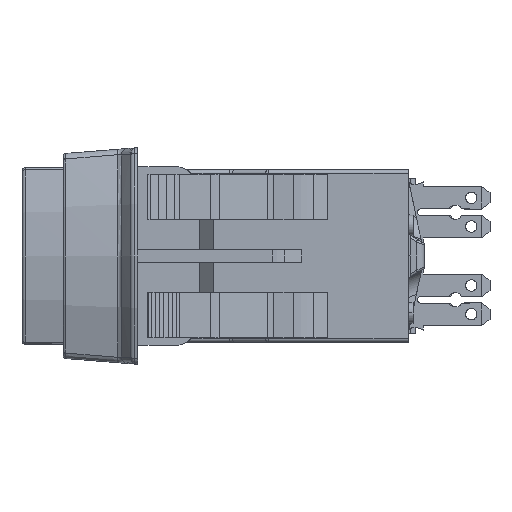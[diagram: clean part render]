
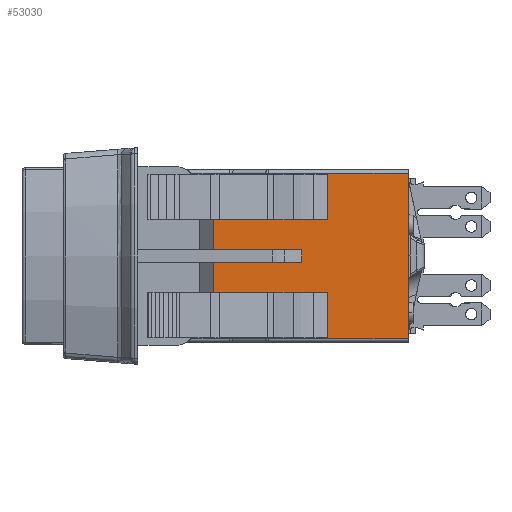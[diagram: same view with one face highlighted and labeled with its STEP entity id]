
A CAD part, left-side view. The second image highlights one B-rep face of the part: STEP entity #53030.
In plain terms, the highlighted planar face has unit normal (-1, 0, 0).
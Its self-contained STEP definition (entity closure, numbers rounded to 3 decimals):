
#12535=DIRECTION('',(0.,0.,1.));
#12536=VECTOR('',#12535,20.2);
#12537=CARTESIAN_POINT('',(-20.5,0.,-10.1));
#12538=LINE('',#12537,#12536);
#12938=DIRECTION('',(0.,-1.,0.));
#12939=VECTOR('',#12938,4.619);
#12940=CARTESIAN_POINT('',(-20.5,21.633,-4.5));
#12941=LINE('',#12940,#12939);
#13107=DIRECTION('',(0.,1.,0.));
#13108=VECTOR('',#13107,4.619);
#13109=CARTESIAN_POINT('',(-20.5,17.014,4.5));
#13110=LINE('',#13109,#13108);
#15149=DIRECTION('',(0.,0.,1.));
#15150=VECTOR('',#15149,5.5);
#15151=CARTESIAN_POINT('',(-20.5,14.125,-10.));
#15152=LINE('',#15151,#15150);
#15153=DIRECTION('',(0.,0.,1.));
#15154=VECTOR('',#15153,5.5);
#15155=CARTESIAN_POINT('',(-20.5,9.8,-10.));
#15156=LINE('',#15155,#15154);
#15157=DIRECTION('',(0.,0.,1.));
#15158=VECTOR('',#15157,5.5);
#15159=CARTESIAN_POINT('',(-20.5,14.125,4.5));
#15160=LINE('',#15159,#15158);
#15161=DIRECTION('',(0.,0.,1.));
#15162=VECTOR('',#15161,5.5);
#15163=CARTESIAN_POINT('',(-20.5,9.8,4.5));
#15164=LINE('',#15163,#15162);
#15165=DIRECTION('',(0.,-1.,0.));
#15166=VECTOR('',#15165,17.014);
#15167=CARTESIAN_POINT('',(-20.5,17.014,10.1));
#15168=LINE('',#15167,#15166);
#15169=DIRECTION('',(0.,1.,0.));
#15170=VECTOR('',#15169,17.014);
#15171=CARTESIAN_POINT('',(-20.5,0.,-10.1));
#15172=LINE('',#15171,#15170);
#15173=DIRECTION('',(0.,0.,-1.));
#15174=VECTOR('',#15173,5.6);
#15175=CARTESIAN_POINT('',(-20.5,17.014,-4.5));
#15176=LINE('',#15175,#15174);
#15177=DIRECTION('',(0.,-1.,0.));
#15178=VECTOR('',#15177,2.167);
#15179=CARTESIAN_POINT('',(-20.5,23.8,-4.5));
#15180=LINE('',#15179,#15178);
#15181=DIRECTION('',(0.,0.,1.));
#15182=VECTOR('',#15181,3.75);
#15183=CARTESIAN_POINT('',(-20.5,23.8,-4.5));
#15184=LINE('',#15183,#15182);
#15185=DIRECTION('',(0.,-1.,0.));
#15186=VECTOR('',#15185,10.8);
#15187=CARTESIAN_POINT('',(-20.5,23.8,-0.75));
#15188=LINE('',#15187,#15186);
#15189=DIRECTION('',(0.,0.,1.));
#15190=VECTOR('',#15189,1.5);
#15191=CARTESIAN_POINT('',(-20.5,13.,-0.75));
#15192=LINE('',#15191,#15190);
#15193=DIRECTION('',(0.,-1.,0.));
#15194=VECTOR('',#15193,10.8);
#15195=CARTESIAN_POINT('',(-20.5,23.8,0.75));
#15196=LINE('',#15195,#15194);
#15197=DIRECTION('',(0.,0.,1.));
#15198=VECTOR('',#15197,3.75);
#15199=CARTESIAN_POINT('',(-20.5,23.8,0.75));
#15200=LINE('',#15199,#15198);
#15201=DIRECTION('',(0.,-1.,0.));
#15202=VECTOR('',#15201,2.167);
#15203=CARTESIAN_POINT('',(-20.5,23.8,4.5));
#15204=LINE('',#15203,#15202);
#15205=DIRECTION('',(0.,0.,-1.));
#15206=VECTOR('',#15205,5.6);
#15207=CARTESIAN_POINT('',(-20.5,17.014,10.1));
#15208=LINE('',#15207,#15206);
#15342=DIRECTION('',(0.,1.,0.));
#15343=VECTOR('',#15342,4.325);
#15344=CARTESIAN_POINT('',(-20.5,9.8,-10.));
#15345=LINE('',#15344,#15343);
#15486=DIRECTION('',(0.,1.,0.));
#15487=VECTOR('',#15486,4.325);
#15488=CARTESIAN_POINT('',(-20.5,9.8,4.5));
#15489=LINE('',#15488,#15487);
#15706=DIRECTION('',(0.,-1.,0.));
#15707=VECTOR('',#15706,4.325);
#15708=CARTESIAN_POINT('',(-20.5,14.125,10.));
#15709=LINE('',#15708,#15707);
#22370=DIRECTION('',(0.,-1.,0.));
#22371=VECTOR('',#22370,4.325);
#22372=CARTESIAN_POINT('',(-20.5,14.125,-4.5));
#22373=LINE('',#22372,#22371);
#26501=CARTESIAN_POINT('',(-20.5,23.8,-0.75));
#26502=CARTESIAN_POINT('',(-20.5,13.,-0.75));
#26503=VERTEX_POINT('',#26501);
#26504=VERTEX_POINT('',#26502);
#26505=CARTESIAN_POINT('',(-20.5,23.8,0.75));
#26506=CARTESIAN_POINT('',(-20.5,13.,0.75));
#26507=VERTEX_POINT('',#26505);
#26508=VERTEX_POINT('',#26506);
#26665=CARTESIAN_POINT('',(-20.5,9.8,-10.));
#26666=CARTESIAN_POINT('',(-20.5,9.8,-4.5));
#26667=VERTEX_POINT('',#26665);
#26668=VERTEX_POINT('',#26666);
#26669=CARTESIAN_POINT('',(-20.5,23.8,-4.5));
#26670=CARTESIAN_POINT('',(-20.5,21.633,-4.5));
#26671=VERTEX_POINT('',#26669);
#26672=VERTEX_POINT('',#26670);
#26915=CARTESIAN_POINT('',(-20.5,9.8,4.5));
#26916=CARTESIAN_POINT('',(-20.5,9.8,10.));
#26917=VERTEX_POINT('',#26915);
#26918=VERTEX_POINT('',#26916);
#26927=CARTESIAN_POINT('',(-20.5,23.8,4.5));
#26928=CARTESIAN_POINT('',(-20.5,21.633,4.5));
#26929=VERTEX_POINT('',#26927);
#26930=VERTEX_POINT('',#26928);
#29908=CARTESIAN_POINT('',(-20.5,14.125,-10.));
#29909=CARTESIAN_POINT('',(-20.5,14.125,-4.5));
#29910=VERTEX_POINT('',#29908);
#29911=VERTEX_POINT('',#29909);
#29921=CARTESIAN_POINT('',(-20.5,14.125,4.5));
#29923=VERTEX_POINT('',#29921);
#29924=CARTESIAN_POINT('',(-20.5,14.125,10.));
#29926=VERTEX_POINT('',#29924);
#30325=CARTESIAN_POINT('',(-20.5,17.014,-4.5));
#30327=VERTEX_POINT('',#30325);
#30328=CARTESIAN_POINT('',(-20.5,17.014,4.5));
#30330=VERTEX_POINT('',#30328);
#30413=CARTESIAN_POINT('',(-20.5,0.,10.1));
#30415=VERTEX_POINT('',#30413);
#30416=CARTESIAN_POINT('',(-20.5,17.014,10.1));
#30417=VERTEX_POINT('',#30416);
#30454=CARTESIAN_POINT('',(-20.5,17.014,-10.1));
#30455=VERTEX_POINT('',#30454);
#30456=CARTESIAN_POINT('',(-20.5,0.,-10.1));
#30458=VERTEX_POINT('',#30456);
#52979=CARTESIAN_POINT('',(-20.5,17.2,-10.5));
#52980=DIRECTION('',(-1.,0.,0.));
#52981=DIRECTION('',(0.,-1.,0.));
#52982=AXIS2_PLACEMENT_3D('',#52979,#52980,#52981);
#52983=PLANE('',#52982);
#52984=ORIENTED_EDGE('',*,*,#52972,.T.);
#52985=ORIENTED_EDGE('',*,*,#49543,.F.);
#52987=ORIENTED_EDGE('',*,*,#52986,.T.);
#52989=ORIENTED_EDGE('',*,*,#52988,.F.);
#52990=ORIENTED_EDGE('',*,*,#49943,.F.);
#52992=ORIENTED_EDGE('',*,*,#52991,.F.);
#52994=ORIENTED_EDGE('',*,*,#52993,.T.);
#52996=ORIENTED_EDGE('',*,*,#52995,.T.);
#52998=ORIENTED_EDGE('',*,*,#52997,.T.);
#53000=ORIENTED_EDGE('',*,*,#52999,.F.);
#53002=ORIENTED_EDGE('',*,*,#53001,.T.);
#53004=ORIENTED_EDGE('',*,*,#53003,.T.);
#53005=ORIENTED_EDGE('',*,*,#50135,.F.);
#53007=ORIENTED_EDGE('',*,*,#53006,.F.);
#53008=EDGE_LOOP('',(#52984,#52985,#52987,#52989,#52990,#52992,#52994,#52996,
#52998,#53000,#53002,#53004,#53005,#53007));
#53009=FACE_OUTER_BOUND('',#53008,.F.);
#53011=ORIENTED_EDGE('',*,*,#53010,.F.);
#53013=ORIENTED_EDGE('',*,*,#53012,.F.);
#53015=ORIENTED_EDGE('',*,*,#53014,.T.);
#53017=ORIENTED_EDGE('',*,*,#53016,.F.);
#53018=EDGE_LOOP('',(#53011,#53013,#53015,#53017));
#53019=FACE_BOUND('',#53018,.F.);
#53021=ORIENTED_EDGE('',*,*,#53020,.F.);
#53023=ORIENTED_EDGE('',*,*,#53022,.F.);
#53025=ORIENTED_EDGE('',*,*,#53024,.T.);
#53027=ORIENTED_EDGE('',*,*,#53026,.F.);
#53028=EDGE_LOOP('',(#53021,#53023,#53025,#53027));
#53029=FACE_BOUND('',#53028,.F.);
#49543=EDGE_CURVE('',#30458,#30415,#12538,.T.);
#49943=EDGE_CURVE('',#26672,#30327,#12941,.T.);
#50135=EDGE_CURVE('',#30330,#26930,#13110,.T.);
#52972=EDGE_CURVE('',#30417,#30415,#15168,.T.);
#52986=EDGE_CURVE('',#30458,#30455,#15172,.T.);
#52988=EDGE_CURVE('',#30327,#30455,#15176,.T.);
#52991=EDGE_CURVE('',#26671,#26672,#15180,.T.);
#52993=EDGE_CURVE('',#26671,#26503,#15184,.T.);
#52995=EDGE_CURVE('',#26503,#26504,#15188,.T.);
#52997=EDGE_CURVE('',#26504,#26508,#15192,.T.);
#52999=EDGE_CURVE('',#26507,#26508,#15196,.T.);
#53001=EDGE_CURVE('',#26507,#26929,#15200,.T.);
#53003=EDGE_CURVE('',#26929,#26930,#15204,.T.);
#53006=EDGE_CURVE('',#30417,#30330,#15208,.T.);
#53010=EDGE_CURVE('',#29923,#29926,#15160,.T.);
#53012=EDGE_CURVE('',#26917,#29923,#15489,.T.);
#53014=EDGE_CURVE('',#26917,#26918,#15164,.T.);
#53016=EDGE_CURVE('',#29926,#26918,#15709,.T.);
#53020=EDGE_CURVE('',#29910,#29911,#15152,.T.);
#53022=EDGE_CURVE('',#26667,#29910,#15345,.T.);
#53024=EDGE_CURVE('',#26667,#26668,#15156,.T.);
#53026=EDGE_CURVE('',#29911,#26668,#22373,.T.);
#53030=ADVANCED_FACE('',(#53009,#53019,#53029),#52983,.T.);
